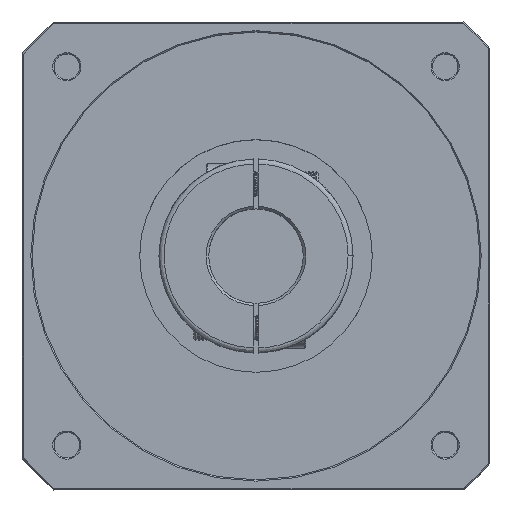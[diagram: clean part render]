
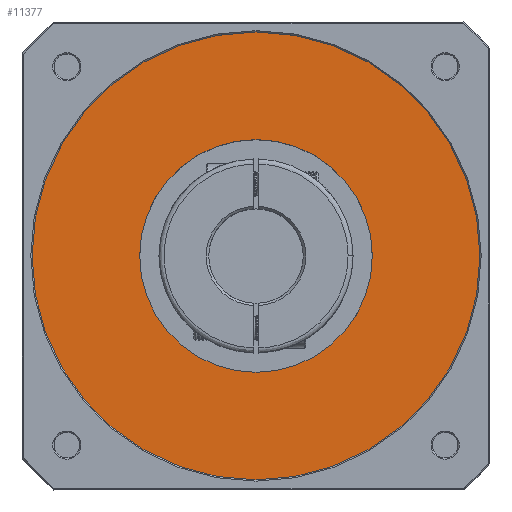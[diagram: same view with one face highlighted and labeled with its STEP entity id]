
A CAD part, top view. The second image highlights one B-rep face of the part: STEP entity #11377.
In plain terms, the highlighted planar face has unit normal (0, 0, -1).
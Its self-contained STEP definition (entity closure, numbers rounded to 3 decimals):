
#5631 = DIRECTION ( 'NONE',  ( 1., 0., 0. ) ) ;
#5804 = ORIENTED_EDGE ( 'NONE', *, *, #43627, .T. ) ;
#8026 = DIRECTION ( 'NONE',  ( 0., 0., -1. ) ) ;
#11377 = ADVANCED_FACE ( 'NONE', ( #48199, #69245 ), #20909, .F. ) ;
#14302 = AXIS2_PLACEMENT_3D ( 'NONE', #100412, #53114, #5631 ) ;
#17073 = CIRCLE ( 'NONE', #79413, 90. ) ;
#20909 = PLANE ( 'NONE',  #14302 ) ;
#23037 = DIRECTION ( 'NONE',  ( 0., 0., 1. ) ) ;
#26790 = EDGE_CURVE ( 'NONE', #64620, #31082, #75282, .T. ) ;
#29358 = EDGE_LOOP ( 'NONE', ( #101326, #5804 ) ) ;
#31082 = VERTEX_POINT ( 'NONE', #37475 ) ;
#33651 = CARTESIAN_POINT ( 'NONE',  ( 0., 0., 157.5 ) ) ;
#33774 = AXIS2_PLACEMENT_3D ( 'NONE', #82615, #35249, #90543 ) ;
#35168 = CARTESIAN_POINT ( 'NONE',  ( -90., 0., 157.5 ) ) ;
#35249 = DIRECTION ( 'NONE',  ( 0., 0., 1. ) ) ;
#37475 = CARTESIAN_POINT ( 'NONE',  ( -46.75, 0., 157.5 ) ) ;
#40858 = CIRCLE ( 'NONE', #91279, 46.75 ) ;
#41636 = DIRECTION ( 'NONE',  ( 1., 0., 0. ) ) ;
#42054 = CARTESIAN_POINT ( 'NONE',  ( 46.75, 0., 157.5 ) ) ;
#43627 = EDGE_CURVE ( 'NONE', #69122, #67990, #51890, .T. ) ;
#43740 = ORIENTED_EDGE ( 'NONE', *, *, #94067, .T. ) ;
#45634 = EDGE_LOOP ( 'NONE', ( #43740, #67095 ) ) ;
#48199 = FACE_BOUND ( 'NONE', #45634, .T. ) ;
#51890 = CIRCLE ( 'NONE', #58665, 90. ) ;
#52069 = CARTESIAN_POINT ( 'NONE',  ( 90., 0., 157.5 ) ) ;
#53114 = DIRECTION ( 'NONE',  ( 0., 0., 1. ) ) ;
#55500 = CARTESIAN_POINT ( 'NONE',  ( 0., 0., 157.5 ) ) ;
#58333 = EDGE_CURVE ( 'NONE', #67990, #69122, #17073, .T. ) ;
#58665 = AXIS2_PLACEMENT_3D ( 'NONE', #33651, #88961, #41636 ) ;
#63419 = DIRECTION ( 'NONE',  ( 1., 0., 0. ) ) ;
#64620 = VERTEX_POINT ( 'NONE', #42054 ) ;
#67095 = ORIENTED_EDGE ( 'NONE', *, *, #26790, .T. ) ;
#67990 = VERTEX_POINT ( 'NONE', #52069 ) ;
#69122 = VERTEX_POINT ( 'NONE', #35168 ) ;
#69245 = FACE_OUTER_BOUND ( 'NONE', #29358, .T. ) ;
#70465 = CARTESIAN_POINT ( 'NONE',  ( 0., 0., 157.5 ) ) ;
#75282 = CIRCLE ( 'NONE', #33774, 46.75 ) ;
#78405 = DIRECTION ( 'NONE',  ( -1., 0., 0. ) ) ;
#79413 = AXIS2_PLACEMENT_3D ( 'NONE', #55500, #8026, #63419 ) ;
#82615 = CARTESIAN_POINT ( 'NONE',  ( 0., 0., 157.5 ) ) ;
#88961 = DIRECTION ( 'NONE',  ( 0., 0., -1. ) ) ;
#90543 = DIRECTION ( 'NONE',  ( -1., 0., 0. ) ) ;
#91279 = AXIS2_PLACEMENT_3D ( 'NONE', #70465, #23037, #78405 ) ;
#94067 = EDGE_CURVE ( 'NONE', #31082, #64620, #40858, .T. ) ;
#100412 = CARTESIAN_POINT ( 'NONE',  ( -91.08, -91.08, 157.5 ) ) ;
#101326 = ORIENTED_EDGE ( 'NONE', *, *, #58333, .T. ) ;
